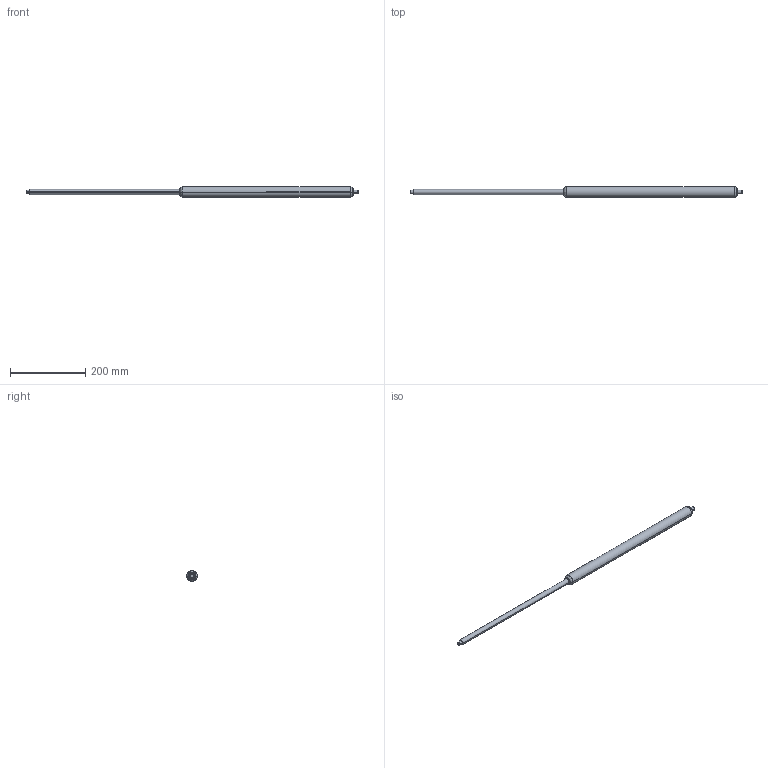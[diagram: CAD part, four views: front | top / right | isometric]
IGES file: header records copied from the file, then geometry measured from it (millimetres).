
Start section: SolidWorks IGES file using analytic representation for surfaces
Global section: file name: Z:\7-3D図面\01.図面\01.L\外形図\Ｇ／Ｓ\20170710(最新)\カタログ用\IGES\FGS-28-400-BB.IGS; native system: SolidWorks 2016; preprocessor: SolidWorks 2016; author: flgijutsu; date: 170710.171738; units: millimetre
Bounding box: 884 x 28 x 28 mm (x, y, z)
Surface area: 59867.3 mm2 (no closed solid volume)
Topology: 0 solids, 0 shells, 29 faces, 352 edges, 352 vertices
Faces by surface type: revolution 20, bspline 9
